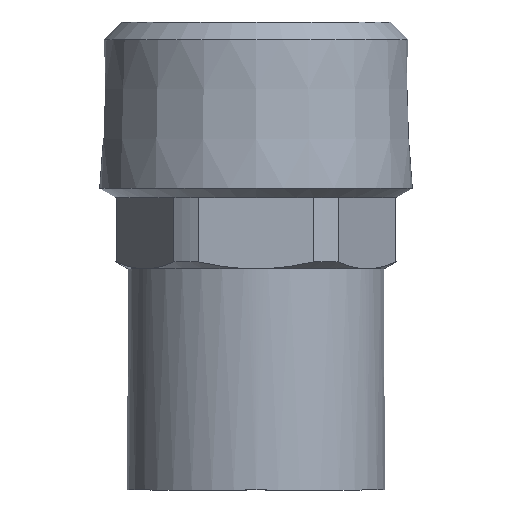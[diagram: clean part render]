
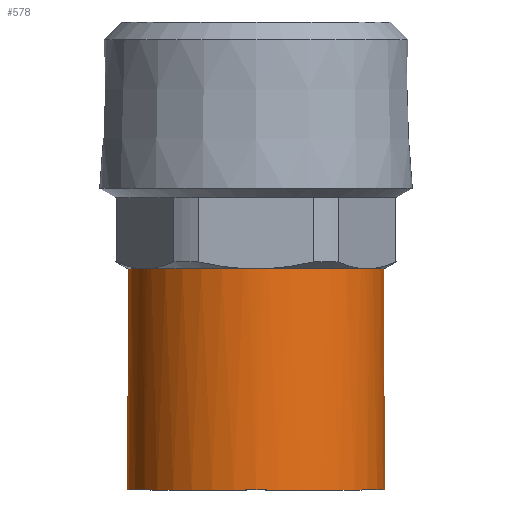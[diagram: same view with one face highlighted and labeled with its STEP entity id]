
A CAD part, front view. The second image highlights one B-rep face of the part: STEP entity #578.
In plain terms, the highlighted cylindrical face has radius 11 mm (diameter 22 mm), a full revolution.
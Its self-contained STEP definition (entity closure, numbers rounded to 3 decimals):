
#34=CYLINDRICAL_SURFACE('',#678,11.);
#37=CIRCLE('',#608,11.);
#39=CIRCLE('',#613,11.);
#42=CIRCLE('',#619,11.);
#43=CIRCLE('',#620,11.);
#45=CIRCLE('',#625,11.);
#47=CIRCLE('',#630,11.);
#60=CIRCLE('',#650,11.);
#61=CIRCLE('',#652,11.);
#62=CIRCLE('',#654,11.);
#63=CIRCLE('',#656,11.);
#64=CIRCLE('',#658,11.);
#65=CIRCLE('',#660,11.);
#67=CIRCLE('',#665,11.);
#74=CIRCLE('',#679,11.);
#112=FACE_OUTER_BOUND('',#153,.T.);
#153=EDGE_LOOP('',(#499,#500,#501,#502,#503,#504,#505,#506,#507,#508,#509,
#510,#511,#512,#513,#514));
#185=LINE('',#1059,#215);
#215=VECTOR('',#865,11.);
#229=VERTEX_POINT('',#875);
#231=VERTEX_POINT('',#880);
#235=VERTEX_POINT('',#896);
#237=VERTEX_POINT('',#901);
#241=VERTEX_POINT('',#917);
#243=VERTEX_POINT('',#922);
#248=VERTEX_POINT('',#938);
#249=VERTEX_POINT('',#942);
#251=VERTEX_POINT('',#947);
#255=VERTEX_POINT('',#963);
#257=VERTEX_POINT('',#968);
#265=VERTEX_POINT('',#1008);
#266=VERTEX_POINT('',#1020);
#273=VERTEX_POINT('',#1057);
#282=EDGE_CURVE('',#231,#229,#37,.T.);
#290=EDGE_CURVE('',#237,#235,#39,.T.);
#299=EDGE_CURVE('',#243,#248,#42,.T.);
#300=EDGE_CURVE('',#248,#241,#43,.T.);
#308=EDGE_CURVE('',#251,#249,#45,.T.);
#316=EDGE_CURVE('',#257,#255,#47,.T.);
#331=EDGE_CURVE('',#265,#257,#60,.T.);
#333=EDGE_CURVE('',#255,#251,#61,.T.);
#334=EDGE_CURVE('',#249,#243,#62,.T.);
#335=EDGE_CURVE('',#241,#237,#63,.T.);
#337=EDGE_CURVE('',#229,#266,#64,.T.);
#338=EDGE_CURVE('',#235,#231,#65,.T.);
#342=EDGE_CURVE('',#266,#265,#67,.T.);
#353=EDGE_CURVE('',#273,#273,#74,.T.);
#354=EDGE_CURVE('',#273,#248,#185,.T.);
#499=ORIENTED_EDGE('',*,*,#353,.F.);
#500=ORIENTED_EDGE('',*,*,#354,.T.);
#501=ORIENTED_EDGE('',*,*,#300,.T.);
#502=ORIENTED_EDGE('',*,*,#335,.T.);
#503=ORIENTED_EDGE('',*,*,#290,.T.);
#504=ORIENTED_EDGE('',*,*,#338,.T.);
#505=ORIENTED_EDGE('',*,*,#282,.T.);
#506=ORIENTED_EDGE('',*,*,#337,.T.);
#507=ORIENTED_EDGE('',*,*,#342,.T.);
#508=ORIENTED_EDGE('',*,*,#331,.T.);
#509=ORIENTED_EDGE('',*,*,#316,.T.);
#510=ORIENTED_EDGE('',*,*,#333,.T.);
#511=ORIENTED_EDGE('',*,*,#308,.T.);
#512=ORIENTED_EDGE('',*,*,#334,.T.);
#513=ORIENTED_EDGE('',*,*,#299,.T.);
#514=ORIENTED_EDGE('',*,*,#354,.F.);
#578=ADVANCED_FACE('',(#112),#34,.T.);
#608=AXIS2_PLACEMENT_3D('',#894,#697,#698);
#613=AXIS2_PLACEMENT_3D('',#915,#711,#712);
#619=AXIS2_PLACEMENT_3D('',#939,#727,#728);
#620=AXIS2_PLACEMENT_3D('',#940,#729,#730);
#625=AXIS2_PLACEMENT_3D('',#961,#743,#744);
#630=AXIS2_PLACEMENT_3D('',#982,#757,#758);
#650=AXIS2_PLACEMENT_3D('',#1009,#799,#800);
#652=AXIS2_PLACEMENT_3D('',#1014,#803,#804);
#654=AXIS2_PLACEMENT_3D('',#1016,#807,#808);
#656=AXIS2_PLACEMENT_3D('',#1018,#811,#812);
#658=AXIS2_PLACEMENT_3D('',#1024,#815,#816);
#660=AXIS2_PLACEMENT_3D('',#1026,#819,#820);
#665=AXIS2_PLACEMENT_3D('',#1033,#831,#832);
#678=AXIS2_PLACEMENT_3D('',#1056,#861,#862);
#679=AXIS2_PLACEMENT_3D('',#1058,#863,#864);
#697=DIRECTION('center_axis',(0.,0.,-1.));
#698=DIRECTION('ref_axis',(1.,0.,0.));
#711=DIRECTION('center_axis',(0.,0.,-1.));
#712=DIRECTION('ref_axis',(1.,0.,0.));
#727=DIRECTION('center_axis',(0.,0.,-1.));
#728=DIRECTION('ref_axis',(1.,0.,0.));
#729=DIRECTION('center_axis',(0.,0.,-1.));
#730=DIRECTION('ref_axis',(1.,0.,0.));
#743=DIRECTION('center_axis',(0.,0.,-1.));
#744=DIRECTION('ref_axis',(1.,0.,0.));
#757=DIRECTION('center_axis',(0.,0.,-1.));
#758=DIRECTION('ref_axis',(1.,0.,0.));
#799=DIRECTION('center_axis',(0.,0.,-1.));
#800=DIRECTION('ref_axis',(1.,0.,0.));
#803=DIRECTION('center_axis',(0.,0.,-1.));
#804=DIRECTION('ref_axis',(1.,0.,0.));
#807=DIRECTION('center_axis',(0.,0.,-1.));
#808=DIRECTION('ref_axis',(1.,0.,0.));
#811=DIRECTION('center_axis',(0.,0.,-1.));
#812=DIRECTION('ref_axis',(1.,0.,0.));
#815=DIRECTION('center_axis',(0.,0.,-1.));
#816=DIRECTION('ref_axis',(1.,0.,0.));
#819=DIRECTION('center_axis',(0.,0.,-1.));
#820=DIRECTION('ref_axis',(1.,0.,0.));
#831=DIRECTION('center_axis',(0.,0.,-1.));
#832=DIRECTION('ref_axis',(1.,0.,0.));
#861=DIRECTION('center_axis',(0.,0.,-1.));
#862=DIRECTION('ref_axis',(0.,1.,0.));
#863=DIRECTION('center_axis',(0.,0.,-1.));
#864=DIRECTION('ref_axis',(1.,0.,0.));
#865=DIRECTION('',(0.,0.,1.));
#875=CARTESIAN_POINT('',(-8.959,6.382,-1.077));
#880=CARTESIAN_POINT('',(-10.007,4.568,-1.077));
#894=CARTESIAN_POINT('Origin',(0.,0.,-1.077));
#896=CARTESIAN_POINT('',(-10.007,-4.568,-1.077));
#901=CARTESIAN_POINT('',(-8.959,-6.382,-1.077));
#915=CARTESIAN_POINT('Origin',(0.,0.,-1.077));
#917=CARTESIAN_POINT('',(-1.048,-10.95,-1.077));
#922=CARTESIAN_POINT('',(1.048,-10.95,-1.077));
#938=CARTESIAN_POINT('',(0.,-11.,-1.077));
#939=CARTESIAN_POINT('Origin',(0.,0.,-1.077));
#940=CARTESIAN_POINT('Origin',(0.,0.,-1.077));
#942=CARTESIAN_POINT('',(8.959,-6.382,-1.077));
#947=CARTESIAN_POINT('',(10.007,-4.568,-1.077));
#961=CARTESIAN_POINT('Origin',(0.,0.,-1.077));
#963=CARTESIAN_POINT('',(10.007,4.568,-1.077));
#968=CARTESIAN_POINT('',(8.959,6.382,-1.077));
#982=CARTESIAN_POINT('Origin',(0.,0.,-1.077));
#1008=CARTESIAN_POINT('',(1.048,10.95,-1.077));
#1009=CARTESIAN_POINT('Origin',(0.,0.,-1.077));
#1014=CARTESIAN_POINT('Origin',(0.,0.,-1.077));
#1016=CARTESIAN_POINT('Origin',(0.,0.,-1.077));
#1018=CARTESIAN_POINT('Origin',(0.,0.,-1.077));
#1020=CARTESIAN_POINT('',(-1.048,10.95,-1.077));
#1024=CARTESIAN_POINT('Origin',(0.,0.,-1.077));
#1026=CARTESIAN_POINT('Origin',(0.,0.,-1.077));
#1033=CARTESIAN_POINT('Origin',(0.,0.,-1.077));
#1056=CARTESIAN_POINT('Origin',(0.,0.,-10.539));
#1057=CARTESIAN_POINT('',(0.,-11.,-20.));
#1058=CARTESIAN_POINT('Origin',(0.,0.,-20.));
#1059=CARTESIAN_POINT('',(0.,-11.,-10.539));
